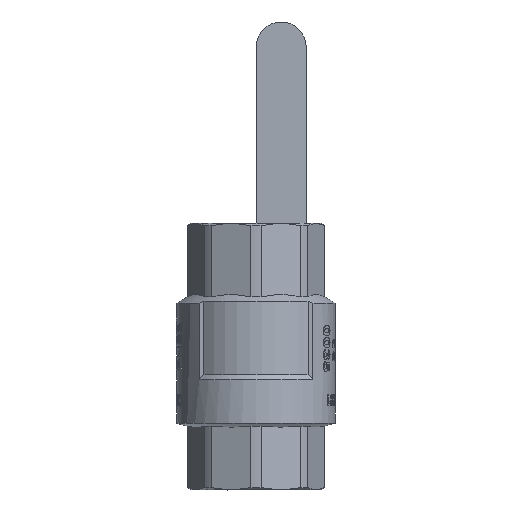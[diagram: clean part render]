
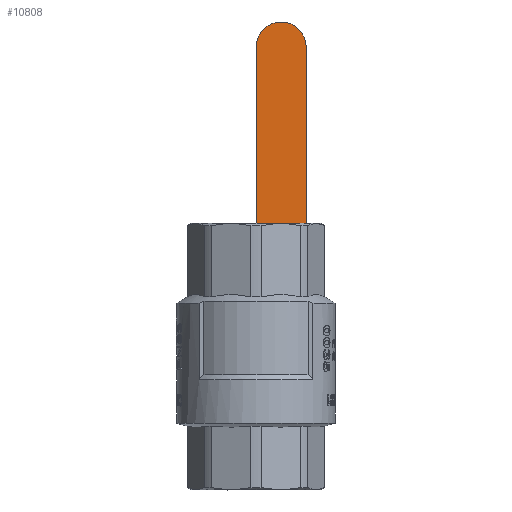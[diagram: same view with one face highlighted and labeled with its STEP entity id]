
A CAD part, front view. The second image highlights one B-rep face of the part: STEP entity #10808.
In plain terms, the highlighted planar face has unit normal (0, -1, 0).
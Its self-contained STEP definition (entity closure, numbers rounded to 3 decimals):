
#359=PLANE('',#11434);
#829=CIRCLE('',#11418,9.012);
#1721=FACE_OUTER_BOUND('',#2359,.T.);
#2359=EDGE_LOOP('',(#9950,#9951,#9952,#9953));
#3612=LINE('',#28688,#4334);
#3624=LINE('',#28718,#4346);
#3628=LINE('',#28731,#4350);
#4334=VECTOR('',#13315,10.);
#4346=VECTOR('',#13343,10.);
#4350=VECTOR('',#13357,10.);
#5369=VERTEX_POINT('',#28671);
#5370=VERTEX_POINT('',#28672);
#5376=VERTEX_POINT('',#28686);
#5386=VERTEX_POINT('',#28717);
#6916=EDGE_CURVE('',#5369,#5370,#829,.T.);
#6924=EDGE_CURVE('',#5370,#5376,#3612,.T.);
#6940=EDGE_CURVE('',#5386,#5369,#3624,.T.);
#6947=EDGE_CURVE('',#5386,#5376,#3628,.T.);
#9950=ORIENTED_EDGE('',*,*,#6940,.T.);
#9951=ORIENTED_EDGE('',*,*,#6916,.T.);
#9952=ORIENTED_EDGE('',*,*,#6924,.T.);
#9953=ORIENTED_EDGE('',*,*,#6947,.F.);
#10808=ADVANCED_FACE('',(#1721),#359,.T.);
#11418=AXIS2_PLACEMENT_3D('',#28673,#13302,#13303);
#11434=AXIS2_PLACEMENT_3D('',#28730,#13355,#13356);
#13302=DIRECTION('center_axis',(0.,-1.,0.));
#13303=DIRECTION('ref_axis',(0.999,0.,-0.051));
#13315=DIRECTION('',(0.,0.,-1.));
#13343=DIRECTION('',(0.,0.,1.));
#13355=DIRECTION('center_axis',(0.,-1.,0.));
#13356=DIRECTION('ref_axis',(0.,0.,-1.));
#13357=DIRECTION('',(-1.,0.,0.));
#28671=CARTESIAN_POINT('',(18.143,57.059,113.351));
#28672=CARTESIAN_POINT('',(0.143,57.059,113.351));
#28673=CARTESIAN_POINT('Origin',(9.143,57.059,112.89));
#28686=CARTESIAN_POINT('',(0.143,57.059,37.447));
#28688=CARTESIAN_POINT('',(0.143,57.059,131.888));
#28717=CARTESIAN_POINT('',(18.143,57.059,37.447));
#28718=CARTESIAN_POINT('',(18.143,57.059,82.169));
#28730=CARTESIAN_POINT('Origin',(0.,57.059,150.424));
#28731=CARTESIAN_POINT('',(0.,57.059,37.447));
